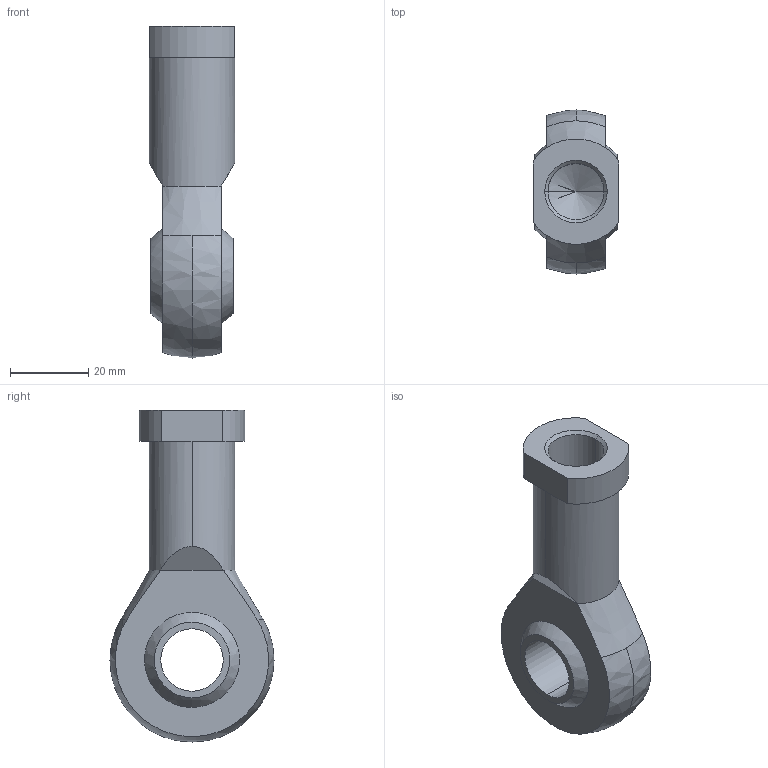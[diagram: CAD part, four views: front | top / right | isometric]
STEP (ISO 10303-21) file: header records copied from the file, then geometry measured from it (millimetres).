
FILE_DESCRIPTION(/* description */ ('VariCAD 2016-1.06 AP-214'),/* implementation_level */ '2;1');
FILE_NAME(/* name */ 'LAOAA-M16x1,5.step',/* time_stamp */ '2016-06-16T10:46:14+02:00',/* author */ ('octogon GmbH'),/* organization */ ('octogon GmbH'),/* preprocessor_version */ 'ST-DEVELOPER v14',/* originating_system */ 'VariCAD 2016-1.06; kernel version (20130303)',/* authorisation */ '');
FILE_SCHEMA (('AUTOMOTIVE_DESIGN'));
Length unit declared in the file: millimetre
Products named in the file (2): LAOAA-M16x1,5 rod end, stainless steel, female thread M16x1.5
Assembly tree (1 placements, depth 2):
  LAOAA-M16x1,5 rod end, stainless steel, female thread M16x1.5
    LAOAA-M16x1,5 rod end, stainless steel, female thread M16x1.5
Bounding box: 22 x 42 x 85 mm (x, y, z)
Volume: 30911.1 mm3; surface area: 10197.9 mm2
Topology: 1 solids, 1 shells, 29 faces, 68 edges, 42 vertices
Faces by surface type: plane 11, cylinder 8, cone 6, sphere 4
Entity records: 1126 total; most frequent: CARTESIAN_POINT 437, DIRECTION 136, ORIENTED_EDGE 128, EDGE_CURVE 64, AXIS2_PLACEMENT_3D 57, VERTEX_POINT 42, EDGE_LOOP 36, FACE_OUTER_BOUND 29
